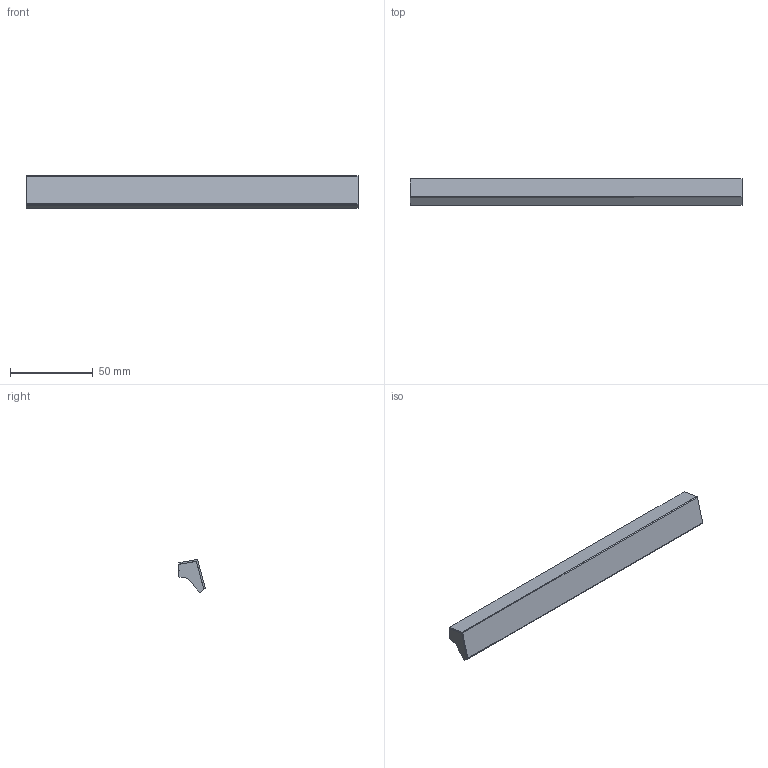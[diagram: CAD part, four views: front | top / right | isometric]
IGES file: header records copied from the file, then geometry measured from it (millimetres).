
Start section: C
Global section: file name: 8244-200.igs; native system: By Siemens PLM Incorporated; preprocessor: XPlus GENERIC/IGES 16.0.42; author: Author; organization: Title; date: 20231114.131823; units: millimetre
Bounding box: 200 x 15.85 x 19.84 mm (x, y, z)
Surface area: 23634.2 mm2 (no closed solid volume)
Topology: 0 solids, 0 shells, 32 faces, 172 edges, 172 vertices
Faces by surface type: bspline 32
